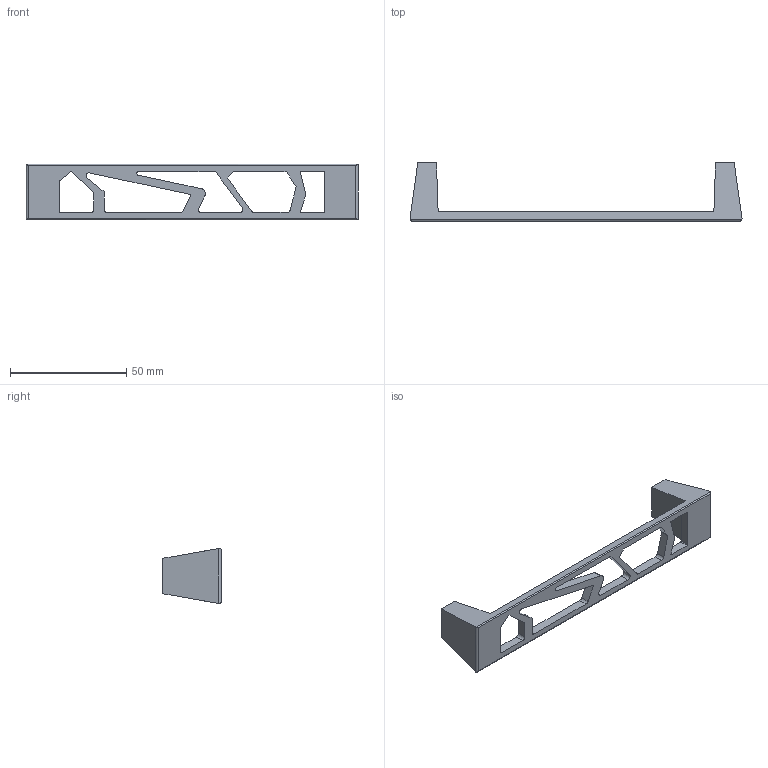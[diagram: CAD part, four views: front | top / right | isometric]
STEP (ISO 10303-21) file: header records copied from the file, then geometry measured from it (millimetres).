
FILE_DESCRIPTION( ( '' ), '1' );
FILE_NAME( 'D:/1.AUTOCAD EXPORT/Group 10/sheet_10_1/9082138.stp', '2013-10-21T12:31:58', ( '' ), ( '' ), ' ', ' ', ' ' );
FILE_SCHEMA( ( 'automotive_design' ) );
Length unit declared in the file: millimetre
Products named in the file (1): 1
Bounding box: 142.73 x 25 x 23.81 mm (x, y, z)
Volume: 14450.5 mm3; surface area: 8714.1 mm2
Topology: 1 solids, 1 shells, 72 faces, 203 edges, 135 vertices
Faces by surface type: plane 38, cone 26, cylinder 8
Entity records: 4680 total; most frequent: CARTESIAN_POINT 455, STYLED_ITEM 411, PRESENTATION_STYLE_ASSIGNMENT 411, COLOUR_RGB 411, ORIENTED_EDGE 406, DIRECTION 404, EDGE_CURVE 203, CURVE_STYLE 203
